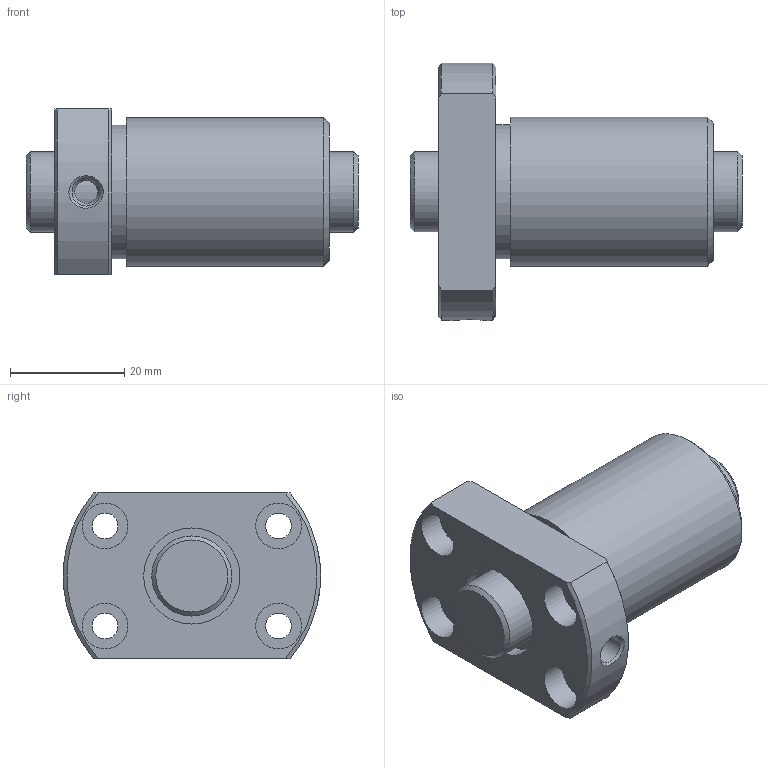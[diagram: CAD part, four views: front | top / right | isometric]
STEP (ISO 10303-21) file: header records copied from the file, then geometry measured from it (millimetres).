
FILE_DESCRIPTION(/* description */ ('STEP AP203'),/* implementation_level */ '2;1');
FILE_NAME(/* name */ 'DIK1404-4RRG0+58LC0_000',/* time_stamp */ '2025-01-13T09:46:24+01:00',/* author */ ('License CC BY-ND 4.0'),/* organization */ ('CADENAS'),/* preprocessor_version */ 'ST-DEVELOPER v19.3',/* originating_system */ 'PARTsolutions',/* authorisation */ ' ');
FILE_SCHEMA (('CONFIG_CONTROL_DESIGN'));
Length unit declared in the file: millimetre
Products named in the file (3): DIK1404-4RRG0+58LC0_000; DIK 1404-4RR05800 Shaft; DIK 1404-4RR Nut
Assembly tree (2 placements, depth 2):
  DIK1404-4RRG0+58LC0_000
    DIK 1404-4RR05800 Shaft
    DIK 1404-4RR Nut
Bounding box: 58 x 44.93 x 29 mm (x, y, z)
Volume: 31631.4 mm3; surface area: 12411.5 mm2
Topology: 2 solids, 2 shells, 41 faces, 83 edges, 54 vertices
Faces by surface type: cylinder 18, plane 14, cone 9
Full cylindrical faces by diameter (mm): 4 x1, 4.5 x4, 4.917 x1, 8 x4, 14 x2, 16.8 x2, 23.4 x1, 26 x1
Entity records: 1087 total; most frequent: CARTESIAN_POINT 200, DIRECTION 180, ORIENTED_EDGE 120, AXIS2_PLACEMENT_3D 86, EDGE_LOOP 82, FACE_BOUND 82, EDGE_CURVE 60, VERTEX_POINT 52
